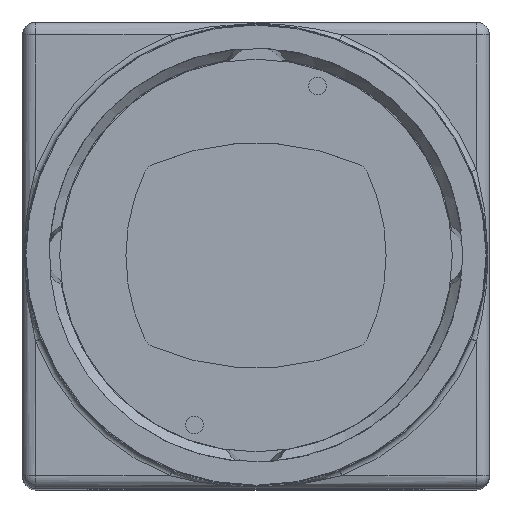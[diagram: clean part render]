
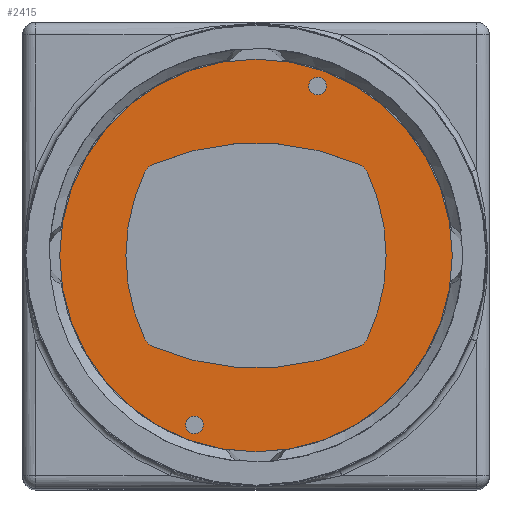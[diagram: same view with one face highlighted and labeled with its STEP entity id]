
A CAD part, top view. The second image highlights one B-rep face of the part: STEP entity #2415.
In plain terms, the highlighted planar face has unit normal (0, 0, 1).
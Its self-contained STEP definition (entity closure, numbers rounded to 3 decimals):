
#2415 = ADVANCED_FACE( '', ( #6997, #6998, #6999, #7000 ), #7001, .F. );
#6997 = FACE_OUTER_BOUND( '', #14224, .T. );
#6998 = FACE_BOUND( '', #14225, .T. );
#6999 = FACE_BOUND( '', #14226, .T. );
#7000 = FACE_BOUND( '', #14227, .T. );
#7001 = PLANE( '', #14228 );
#14224 = EDGE_LOOP( '', ( #24069 ) );
#14225 = EDGE_LOOP( '', ( #24070, #24071, #24072, #24073, #24074, #24075, #24076, #24077 ) );
#14226 = EDGE_LOOP( '', ( #24078 ) );
#14227 = EDGE_LOOP( '', ( #24079 ) );
#14228 = AXIS2_PLACEMENT_3D( '', #24080, #24081, #24082 );
#24069 = ORIENTED_EDGE( '', *, *, #43886, .F. );
#24070 = ORIENTED_EDGE( '', *, *, #43887, .T. );
#24071 = ORIENTED_EDGE( '', *, *, #43888, .T. );
#24072 = ORIENTED_EDGE( '', *, *, #43889, .T. );
#24073 = ORIENTED_EDGE( '', *, *, #43890, .T. );
#24074 = ORIENTED_EDGE( '', *, *, #43891, .T. );
#24075 = ORIENTED_EDGE( '', *, *, #43892, .T. );
#24076 = ORIENTED_EDGE( '', *, *, #43893, .T. );
#24077 = ORIENTED_EDGE( '', *, *, #43613, .T. );
#24078 = ORIENTED_EDGE( '', *, *, #43894, .F. );
#24079 = ORIENTED_EDGE( '', *, *, #43735, .T. );
#24080 = CARTESIAN_POINT( '', ( 1.907, 5.239, 5.8 ) );
#24081 = DIRECTION( '', ( 0., 0., -1. ) );
#24082 = DIRECTION( '', ( -1., 0., 0. ) );
#43613 = EDGE_CURVE( '', #51437, #51438, #51439, .T. );
#43735 = EDGE_CURVE( '', #51650, #51650, #51651, .T. );
#43886 = EDGE_CURVE( '', #51922, #51922, #51923, .T. );
#43887 = EDGE_CURVE( '', #51438, #51924, #51925, .T. );
#43888 = EDGE_CURVE( '', #51924, #51926, #51927, .T. );
#43889 = EDGE_CURVE( '', #51926, #51928, #51929, .T. );
#43890 = EDGE_CURVE( '', #51928, #51930, #51931, .T. );
#43891 = EDGE_CURVE( '', #51930, #51932, #51933, .T. );
#43892 = EDGE_CURVE( '', #51932, #51934, #51935, .T. );
#43893 = EDGE_CURVE( '', #51934, #51437, #51936, .T. );
#43894 = EDGE_CURVE( '', #51937, #51937, #51938, .T. );
#51437 = VERTEX_POINT( '', #62927 );
#51438 = VERTEX_POINT( '', #62928 );
#51439 = CIRCLE( '', #62929, 1. );
#51650 = VERTEX_POINT( '', #63244 );
#51651 = CIRCLE( '', #63245, 0.55 );
#51922 = VERTEX_POINT( '', #63725 );
#51923 = CIRCLE( '', #63726, 12.2 );
#51924 = VERTEX_POINT( '', #63727 );
#51925 = CIRCLE( '', #63728, 12. );
#51926 = VERTEX_POINT( '', #63729 );
#51927 = CIRCLE( '', #63730, 1. );
#51928 = VERTEX_POINT( '', #63731 );
#51929 = CIRCLE( '', #63732, 16. );
#51930 = VERTEX_POINT( '', #63733 );
#51931 = CIRCLE( '', #63734, 1. );
#51932 = VERTEX_POINT( '', #63735 );
#51933 = CIRCLE( '', #63736, 12. );
#51934 = VERTEX_POINT( '', #63737 );
#51935 = CIRCLE( '', #63738, 1. );
#51936 = CIRCLE( '', #63739, 16. );
#51937 = VERTEX_POINT( '', #63740 );
#51938 = CIRCLE( '', #63741, 0.55 );
#62927 = CARTESIAN_POINT( '', ( 6.414, 5.652, 5.8 ) );
#62928 = CARTESIAN_POINT( '', ( 6.916, 5.166, 5.8 ) );
#62929 = AXIS2_PLACEMENT_3D( '', #80463, #80464, #80465 );
#63244 = CARTESIAN_POINT( '', ( 4.381, 10.525, 5.8 ) );
#63245 = AXIS2_PLACEMENT_3D( '', #80593, #80594, #80595 );
#63725 = CARTESIAN_POINT( '', ( -12.2, 0., 5.8 ) );
#63726 = AXIS2_PLACEMENT_3D( '', #80774, #80775, #80776 );
#63727 = CARTESIAN_POINT( '', ( 6.916, -5.166, 5.8 ) );
#63728 = AXIS2_PLACEMENT_3D( '', #80777, #80778, #80779 );
#63729 = CARTESIAN_POINT( '', ( 6.414, -5.652, 5.8 ) );
#63730 = AXIS2_PLACEMENT_3D( '', #80780, #80781, #80782 );
#63731 = CARTESIAN_POINT( '', ( -6.414, -5.652, 5.8 ) );
#63732 = AXIS2_PLACEMENT_3D( '', #80783, #80784, #80785 );
#63733 = CARTESIAN_POINT( '', ( -6.916, -5.166, 5.8 ) );
#63734 = AXIS2_PLACEMENT_3D( '', #80786, #80787, #80788 );
#63735 = CARTESIAN_POINT( '', ( -6.916, 5.166, 5.8 ) );
#63736 = AXIS2_PLACEMENT_3D( '', #80789, #80790, #80791 );
#63737 = CARTESIAN_POINT( '', ( -6.414, 5.652, 5.8 ) );
#63738 = AXIS2_PLACEMENT_3D( '', #80792, #80793, #80794 );
#63739 = AXIS2_PLACEMENT_3D( '', #80795, #80796, #80797 );
#63740 = CARTESIAN_POINT( '', ( -3.281, -10.525, 5.8 ) );
#63741 = AXIS2_PLACEMENT_3D( '', #80798, #80799, #80800 );
#80463 = CARTESIAN_POINT( '', ( 6.013, 4.736, 5.8 ) );
#80464 = DIRECTION( '', ( 0., 0., -1. ) );
#80465 = DIRECTION( '', ( -1., 0., 0. ) );
#80593 = CARTESIAN_POINT( '', ( 3.831, 10.525, 5.8 ) );
#80594 = DIRECTION( '', ( 0., 0., -1. ) );
#80595 = DIRECTION( '', ( 1., 0., 0. ) );
#80774 = CARTESIAN_POINT( '', ( 0., 0., 5.8 ) );
#80775 = DIRECTION( '', ( 0., 0., -1. ) );
#80776 = DIRECTION( '', ( -1., 0., 0. ) );
#80777 = CARTESIAN_POINT( '', ( -3.915, 0., 5.8 ) );
#80778 = DIRECTION( '', ( 0., 0., -1. ) );
#80779 = DIRECTION( '', ( -1., 0., 0. ) );
#80780 = CARTESIAN_POINT( '', ( 6.013, -4.736, 5.8 ) );
#80781 = DIRECTION( '', ( 0., 0., -1. ) );
#80782 = DIRECTION( '', ( -1., 0., 0. ) );
#80783 = CARTESIAN_POINT( '', ( 0., 9.006, 5.8 ) );
#80784 = DIRECTION( '', ( 0., 0., -1. ) );
#80785 = DIRECTION( '', ( 1., 0., 0. ) );
#80786 = CARTESIAN_POINT( '', ( -6.013, -4.736, 5.8 ) );
#80787 = DIRECTION( '', ( 0., 0., -1. ) );
#80788 = DIRECTION( '', ( -1., 0., 0. ) );
#80789 = CARTESIAN_POINT( '', ( 3.915, 0., 5.8 ) );
#80790 = DIRECTION( '', ( 0., 0., -1. ) );
#80791 = DIRECTION( '', ( 1., 0., 0. ) );
#80792 = CARTESIAN_POINT( '', ( -6.013, 4.736, 5.8 ) );
#80793 = DIRECTION( '', ( 0., 0., -1. ) );
#80794 = DIRECTION( '', ( -1., 0., 0. ) );
#80795 = CARTESIAN_POINT( '', ( 0., -9.006, 5.8 ) );
#80796 = DIRECTION( '', ( 0., 0., -1. ) );
#80797 = DIRECTION( '', ( 1., 0., 0. ) );
#80798 = CARTESIAN_POINT( '', ( -3.831, -10.525, 5.8 ) );
#80799 = DIRECTION( '', ( 0., 0., 1. ) );
#80800 = DIRECTION( '', ( 1., 0., 0. ) );
